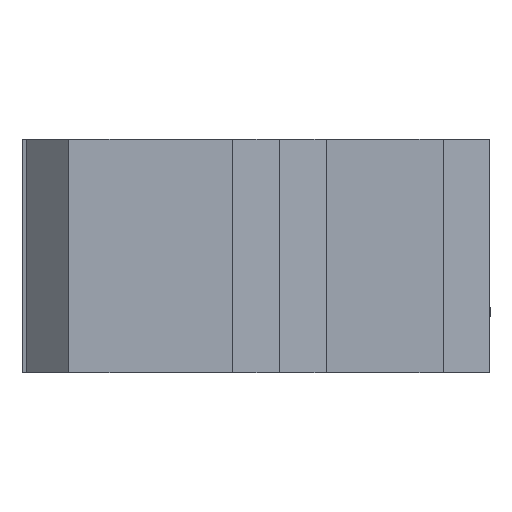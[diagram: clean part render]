
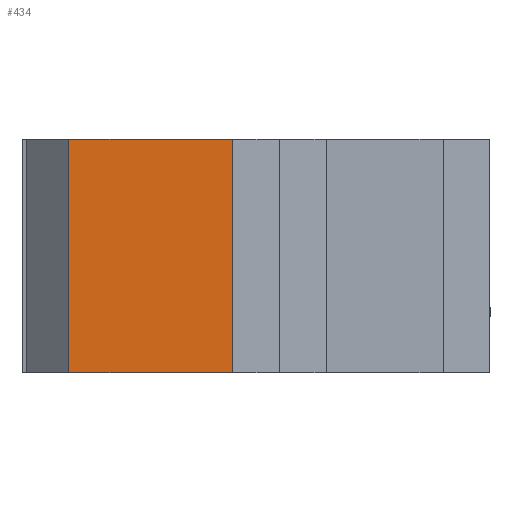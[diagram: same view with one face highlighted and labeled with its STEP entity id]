
A CAD part, left-side view. The second image highlights one B-rep face of the part: STEP entity #434.
In plain terms, the highlighted planar face has unit normal (-1, 0, 0).
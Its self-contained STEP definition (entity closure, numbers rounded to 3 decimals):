
#23 = LINE ( 'NONE', #961, #669 ) ;
#50 = CARTESIAN_POINT ( 'NONE',  ( -30., -114.958, 10. ) ) ;
#74 = DIRECTION ( 'NONE',  ( 0., 0., -1. ) ) ;
#130 = DIRECTION ( 'NONE',  ( 0., 0., 1. ) ) ;
#199 = VERTEX_POINT ( 'NONE', #726 ) ;
#201 = VECTOR ( 'NONE', #74, 1000. ) ;
#214 = EDGE_CURVE ( 'NONE', #589, #199, #23, .T. ) ;
#223 = VECTOR ( 'NONE', #1351, 1000. ) ;
#286 = EDGE_CURVE ( 'NONE', #1107, #589, #1009, .T. ) ;
#314 = DIRECTION ( 'NONE',  ( 0., 1., 0. ) ) ;
#434 = ADVANCED_FACE ( 'NONE', ( #996 ), #1139, .F. ) ;
#466 = ORIENTED_EDGE ( 'NONE', *, *, #286, .T. ) ;
#549 = VECTOR ( 'NONE', #130, 1000. ) ;
#589 = VERTEX_POINT ( 'NONE', #1279 ) ;
#647 = CARTESIAN_POINT ( 'NONE',  ( -30., -112.958, 10. ) ) ;
#669 = VECTOR ( 'NONE', #1433, 1000. ) ;
#697 = LINE ( 'NONE', #959, #549 ) ;
#726 = CARTESIAN_POINT ( 'NONE',  ( -30., -121.958, 0. ) ) ;
#729 = ORIENTED_EDGE ( 'NONE', *, *, #1475, .T. ) ;
#742 = VERTEX_POINT ( 'NONE', #1113 ) ;
#755 = EDGE_CURVE ( 'NONE', #1107, #742, #1022, .T. ) ;
#761 = CARTESIAN_POINT ( 'NONE',  ( -30., -112.958, 10. ) ) ;
#819 = AXIS2_PLACEMENT_3D ( 'NONE', #647, #899, #314 ) ;
#899 = DIRECTION ( 'NONE',  ( 1., 0., 0. ) ) ;
#959 = CARTESIAN_POINT ( 'NONE',  ( -30., -121.958, 10. ) ) ;
#961 = CARTESIAN_POINT ( 'NONE',  ( -30., -112.958, 0. ) ) ;
#996 = FACE_OUTER_BOUND ( 'NONE', #1442, .T. ) ;
#1009 = LINE ( 'NONE', #1350, #201 ) ;
#1022 = LINE ( 'NONE', #761, #223 ) ;
#1094 = ORIENTED_EDGE ( 'NONE', *, *, #755, .F. ) ;
#1107 = VERTEX_POINT ( 'NONE', #50 ) ;
#1113 = CARTESIAN_POINT ( 'NONE',  ( -30., -121.958, 10. ) ) ;
#1139 = PLANE ( 'NONE',  #819 ) ;
#1279 = CARTESIAN_POINT ( 'NONE',  ( -30., -114.958, 0. ) ) ;
#1350 = CARTESIAN_POINT ( 'NONE',  ( -30., -114.958, 10. ) ) ;
#1351 = DIRECTION ( 'NONE',  ( 0., -1., 0. ) ) ;
#1433 = DIRECTION ( 'NONE',  ( 0., -1., 0. ) ) ;
#1442 = EDGE_LOOP ( 'NONE', ( #1094, #466, #1464, #729 ) ) ;
#1464 = ORIENTED_EDGE ( 'NONE', *, *, #214, .T. ) ;
#1475 = EDGE_CURVE ( 'NONE', #199, #742, #697, .T. ) ;
